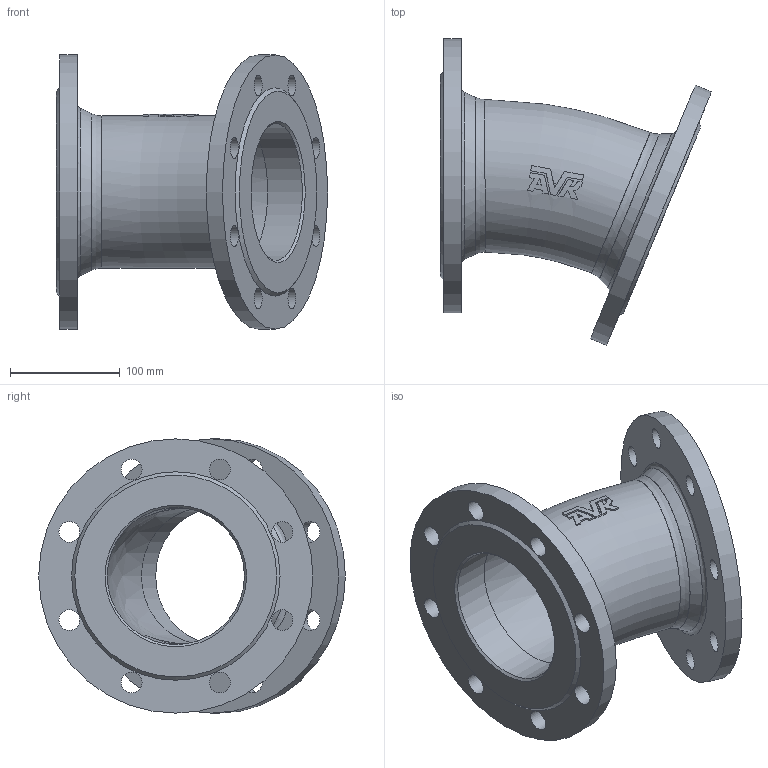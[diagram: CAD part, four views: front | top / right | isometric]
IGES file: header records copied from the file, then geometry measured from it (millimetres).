
Start section: SolidWorks IGES file using analytic representation for surfaces
Global section: file name: \\avksan2\techshare\PBM outline export from Enovia\O_712_0210_DN125_1X_REV01.igs; native system: SolidWorks 2022; preprocessor: SolidWorks 2022; author: pbm; date: 240816.113934; units: millimetre
Bounding box: 247.07 x 279.52 x 250 mm (x, y, z)
Surface area: 324290.9 mm2 (no closed solid volume)
Topology: 0 solids, 1 shells, 81 faces, 400 edges, 363 vertices
Faces by surface type: bspline 43, revolution 38
